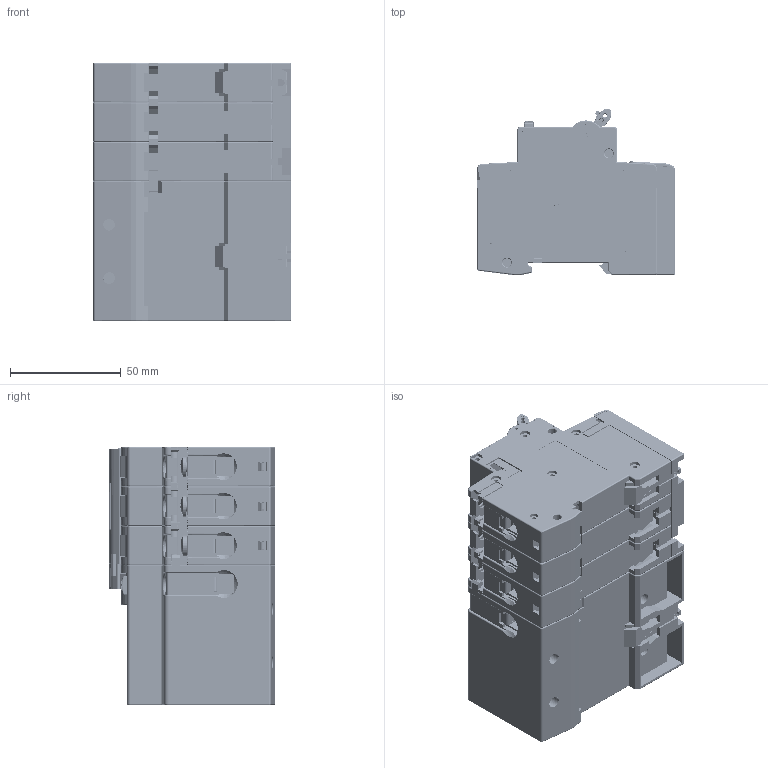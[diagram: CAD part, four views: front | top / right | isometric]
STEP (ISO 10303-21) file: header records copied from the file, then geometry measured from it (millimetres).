
FILE_DESCRIPTION (( 'STEP AP214' ), '1' );
FILE_NAME ('KNLE2-63H装配体3P +N.STEP', '2020-10-12T02:59:03', ( '微软用户' ), ( '微软中国' ), 'SwSTEP 2.0', 'SolidWorks 2015', '' );
FILE_SCHEMA (( 'AUTOMOTIVE_DESIGN' ));
Length unit declared in the file: millimetre
Products named in the file (20): 質蚚C65S3諉盄啣; 質蚚C65珋測遴蹟隊; 借用C65现代款接线柱; 諉盄啣; C65忒梟; BMS（32.7）32-04卡板; 縐諶; 3P+Nﾕﾖ; 2017C65菁; 2017C65裔; 忒梟1.1; 儂殤裔; 儂殤菁; 裔赽4P; 價釱4P; sb_tao_3p-knb2-s; KNLE2-63H蚾饜极3P +N; jie_xian_ban_r-knb2-s; 偌聽; 儂殤耜啣
Assembly tree (46 placements, depth 2):
  KNLE2-63H蚾饜极3P +N
    價釱4P
    裔赽4P
    儂殤菁
    儂殤裔
    忒梟1.1
    2017C65裔  x3
    2017C65菁  x3
    3P+Nﾕﾖ
    縐諶  x2
    BMS（32.7）32-04卡板  x2
    C65忒梟  x3
    諉盄啣  x4
    借用C65现代款接线柱  x8
    質蚚C65珋測遴蹟隊  x8
    質蚚C65S3諉盄啣
    儂殤耜啣
    偌聽
    jie_xian_ban_r-knb2-s  x3
    sb_tao_3p-knb2-s
Bounding box: 89 x 74.94 x 116.4 mm (x, y, z)
Volume: 174108.8 mm3; surface area: 255325 mm2
Topology: 47 solids, 62 shells, 10865 faces, 30288 edges, 19809 vertices
Faces by surface type: plane 7382, cylinder 2832, cone 316, bspline 255, torus 65, sphere 15
Entity records: 179527 total; most frequent: CARTESIAN_POINT 48490, ORIENTED_EDGE 28476, DIRECTION 25079, EDGE_CURVE 14238, VECTOR 10571, LINE 10571, VERTEX_POINT 9294, AXIS2_PLACEMENT_3D 7254
